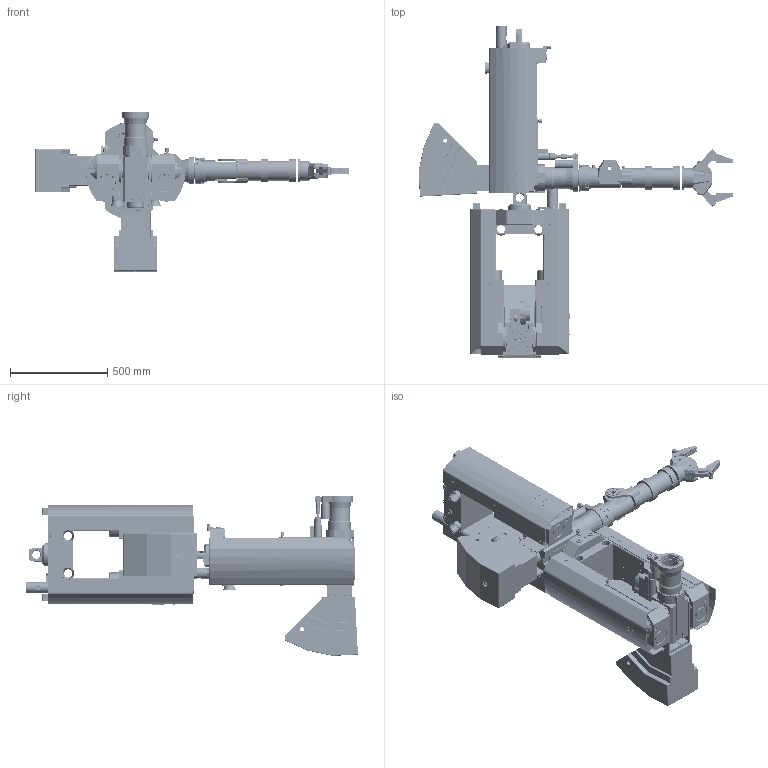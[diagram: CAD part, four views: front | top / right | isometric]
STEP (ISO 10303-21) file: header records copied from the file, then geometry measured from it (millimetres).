
FILE_DESCRIPTION( ( 'STEP AP214' ), '1' );
FILE_NAME( 'H:/SIT-2/Affaires 2008/08059/Fichiers STEP CONDOR II,CONDOR III et PALAN 2000/Fichiers STEP/CONDOR III.step', '2008-11-07T09:22:42', ( ' ' ), ( ' ' ), 'XStep 1.0', ' ', ' ' );
FILE_SCHEMA( ( 'automotive_design' ) );
Length unit declared in the file: millimetre
Products named in the file (31): 230K019; 230L010; 230L024; 230M002; @16754; 230M021; 230M018; 230M006; 230M005; 230M019; 230M004; 230M015; 230M014; 230M013; @21930; Assem1; @35; @51; @79; @350; @366
Bounding box: 1615.17 x 1702.28 x 820.18 mm (x, y, z)
Volume: 150990697.1 mm3; surface area: 8298142 mm2
Topology: 34 solids, 82 shells, 6009 faces, 15583 edges, 10387 vertices
Faces by surface type: plane 2932, cylinder 2305, cone 675, sphere 50, torus 41, bspline 6
Full cylindrical faces by diameter (mm): 0.1 x3, 2 x4, 2.6 x18, 3 x5, 3.2 x2, 3.4 x61, 3.5 x22, 4 x19, 4.1 x3, 4.2 x12, 4.3 x98, 4.5 x31, 5 x27, 5.1 x116, 5.2 x44, 5.5 x60, 6 x79, 6.2 x84, 6.5 x32, 6.65 x4, 6.85 x22, 7 x11, 7.2 x6, 7.5 x4, 8 x38, 8.5 x8, 9 x76, 9.5 x8, 10 x61, 10.1 x2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
Entity records: 141736 total; most frequent: CARTESIAN_POINT 27841, DIRECTION 17632, ORIENTED_EDGE 15086, EDGE_CURVE 7543, AXIS2_PLACEMENT_3D 7072, EDGE_LOOP 5927, VERTEX_POINT 5734, FACE_OUTER_BOUND 4653
